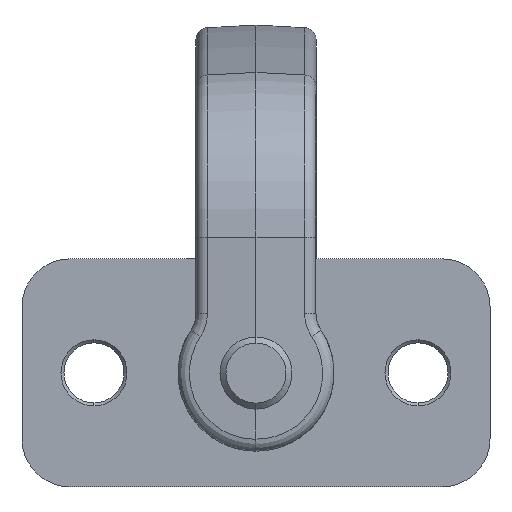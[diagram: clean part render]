
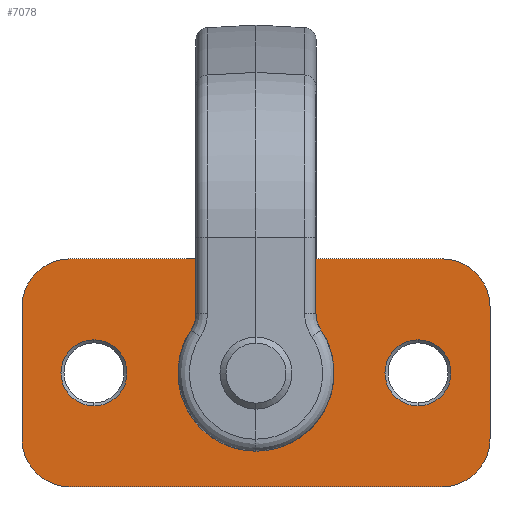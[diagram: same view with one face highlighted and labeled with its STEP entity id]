
A CAD part, left-side view. The second image highlights one B-rep face of the part: STEP entity #7078.
In plain terms, the highlighted planar face has unit normal (-1, 0, 0).
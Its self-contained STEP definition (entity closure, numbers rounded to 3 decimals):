
#7078=ADVANCED_FACE('',(#14593,#14594,#14595),#14596,.T.);
#14593=FACE_BOUND('',#26817,.T.);
#14594=FACE_BOUND('',#26818,.T.);
#14595=FACE_OUTER_BOUND('',#26819,.T.);
#14596=PLANE('',#26820);
#26817=EDGE_LOOP('',(#52560,#52561));
#26818=EDGE_LOOP('',(#52562,#52563));
#26819=EDGE_LOOP('',(#52564,#52565,#52566,#52567,#52568,#52569,#52570,#52571));
#26820=AXIS2_PLACEMENT_3D('',#52572,#52573,#52574);
#52560=ORIENTED_EDGE('',*,*,#78964,.T.);
#52561=ORIENTED_EDGE('',*,*,#78867,.T.);
#52562=ORIENTED_EDGE('',*,*,#78965,.T.);
#52563=ORIENTED_EDGE('',*,*,#78863,.T.);
#52564=ORIENTED_EDGE('',*,*,#78942,.T.);
#52565=ORIENTED_EDGE('',*,*,#78946,.F.);
#52566=ORIENTED_EDGE('',*,*,#78949,.T.);
#52567=ORIENTED_EDGE('',*,*,#78952,.T.);
#52568=ORIENTED_EDGE('',*,*,#78955,.T.);
#52569=ORIENTED_EDGE('',*,*,#78958,.T.);
#52570=ORIENTED_EDGE('',*,*,#78961,.T.);
#52571=ORIENTED_EDGE('',*,*,#78963,.F.);
#52572=CARTESIAN_POINT('',(2569.842,-2864.52,231.0));
#52573=DIRECTION('',(-1.0,0.0,0.0));
#52574=DIRECTION('',(0.0,0.0,1.0));
#78863=EDGE_CURVE('',#91863,#91860,#91864,.T.);
#78867=EDGE_CURVE('',#91871,#91868,#91872,.T.);
#78942=EDGE_CURVE('',#91969,#91967,#91970,.T.);
#78946=EDGE_CURVE('',#91974,#91967,#91976,.T.);
#78949=EDGE_CURVE('',#91974,#91979,#91981,.T.);
#78952=EDGE_CURVE('',#91979,#91984,#91986,.T.);
#78955=EDGE_CURVE('',#91984,#91989,#91991,.T.);
#78958=EDGE_CURVE('',#91989,#91994,#91996,.T.);
#78961=EDGE_CURVE('',#91994,#91999,#92001,.T.);
#78963=EDGE_CURVE('',#91969,#91999,#92003,.T.);
#78964=EDGE_CURVE('',#91868,#91871,#92004,.T.);
#78965=EDGE_CURVE('',#91860,#91863,#92005,.T.);
#91860=VERTEX_POINT('',#104123);
#91863=VERTEX_POINT('',#104127);
#91864=CIRCLE('',#104128,5.5);
#91868=VERTEX_POINT('',#104133);
#91871=VERTEX_POINT('',#104137);
#91872=CIRCLE('',#104138,5.5);
#91967=VERTEX_POINT('',#104322);
#91969=VERTEX_POINT('',#104325);
#91970=CIRCLE('',#104326,8.0);
#91974=VERTEX_POINT('',#104332);
#91976=LINE('',#104335,#104336);
#91979=VERTEX_POINT('',#104339);
#91981=CIRCLE('',#104342,8.0);
#91984=VERTEX_POINT('',#104346);
#91986=LINE('',#104349,#104350);
#91989=VERTEX_POINT('',#104353);
#91991=CIRCLE('',#104356,8.0);
#91994=VERTEX_POINT('',#104360);
#91996=LINE('',#104363,#104364);
#91999=VERTEX_POINT('',#104367);
#92001=CIRCLE('',#104370,8.0);
#92003=LINE('',#104373,#104374);
#92004=CIRCLE('',#104375,5.5);
#92005=CIRCLE('',#104376,5.5);
#104123=CARTESIAN_POINT('',(2569.842,-2922.52,225.5));
#104127=CARTESIAN_POINT('',(2569.842,-2922.52,214.5));
#104128=AXIS2_PLACEMENT_3D('',#132783,#132784,#132785);
#104133=CARTESIAN_POINT('',(2569.842,-2868.52,225.5));
#104137=CARTESIAN_POINT('',(2569.842,-2868.52,214.5));
#104138=AXIS2_PLACEMENT_3D('',#132791,#132792,#132793);
#104322=CARTESIAN_POINT('',(2569.842,-2856.52,231.0));
#104325=CARTESIAN_POINT('',(2569.842,-2864.52,239.0));
#104326=AXIS2_PLACEMENT_3D('',#132914,#132915,#132916);
#104332=CARTESIAN_POINT('',(2569.842,-2856.52,209.0));
#104335=CARTESIAN_POINT('',(2569.842,-2856.52,209.0));
#104336=VECTOR('',#132920,1.0);
#104339=CARTESIAN_POINT('',(2569.842,-2864.52,201.0));
#104342=AXIS2_PLACEMENT_3D('',#132925,#132926,#132927);
#104346=CARTESIAN_POINT('',(2569.842,-2926.52,201.0));
#104349=CARTESIAN_POINT('',(2569.842,-2864.52,201.0));
#104350=VECTOR('',#132930,1.0);
#104353=CARTESIAN_POINT('',(2569.842,-2934.52,209.0));
#104356=AXIS2_PLACEMENT_3D('',#132935,#132936,#132937);
#104360=CARTESIAN_POINT('',(2569.842,-2934.52,231.0));
#104363=CARTESIAN_POINT('',(2569.842,-2934.52,209.0));
#104364=VECTOR('',#132940,1.0);
#104367=CARTESIAN_POINT('',(2569.842,-2926.52,239.0));
#104370=AXIS2_PLACEMENT_3D('',#132945,#132946,#132947);
#104373=CARTESIAN_POINT('',(2569.842,-2864.52,239.0));
#104374=VECTOR('',#132949,1.0);
#104375=AXIS2_PLACEMENT_3D('',#132950,#132951,#132952);
#104376=AXIS2_PLACEMENT_3D('',#132953,#132954,#132955);
#132783=CARTESIAN_POINT('',(2569.842,-2922.52,220.));
#132784=DIRECTION('',(1.0,0.0,-0.0));
#132785=DIRECTION('',(0.0,0.0,1.0));
#132791=CARTESIAN_POINT('',(2569.842,-2868.52,220.));
#132792=DIRECTION('',(1.0,0.0,-0.0));
#132793=DIRECTION('',(0.0,0.0,1.0));
#132914=CARTESIAN_POINT('',(2569.842,-2864.52,231.0));
#132915=DIRECTION('',(-1.0,0.0,0.0));
#132916=DIRECTION('',(0.0,-1.0,0.0));
#132920=DIRECTION('',(0.0,0.0,1.0));
#132925=CARTESIAN_POINT('',(2569.842,-2864.52,209.0));
#132926=DIRECTION('',(-1.0,0.0,0.0));
#132927=DIRECTION('',(0.0,-1.0,0.0));
#132930=DIRECTION('',(0.0,-1.0,0.0));
#132935=CARTESIAN_POINT('',(2569.842,-2926.52,209.0));
#132936=DIRECTION('',(-1.0,0.0,0.0));
#132937=DIRECTION('',(0.0,-1.0,0.0));
#132940=DIRECTION('',(0.0,0.0,1.0));
#132945=CARTESIAN_POINT('',(2569.842,-2926.52,231.0));
#132946=DIRECTION('',(-1.0,0.0,0.0));
#132947=DIRECTION('',(0.0,-1.0,0.0));
#132949=DIRECTION('',(0.0,-1.0,0.0));
#132950=CARTESIAN_POINT('',(2569.842,-2868.52,220.));
#132951=DIRECTION('',(1.0,0.0,-0.0));
#132952=DIRECTION('',(0.0,0.0,1.0));
#132953=CARTESIAN_POINT('',(2569.842,-2922.52,220.));
#132954=DIRECTION('',(1.0,0.0,-0.0));
#132955=DIRECTION('',(0.0,0.0,1.0));
